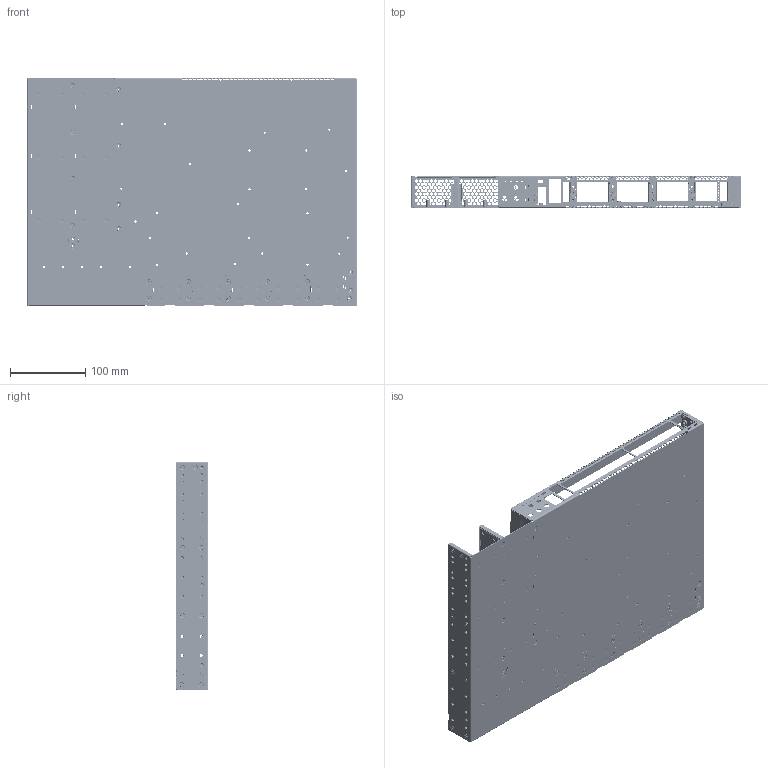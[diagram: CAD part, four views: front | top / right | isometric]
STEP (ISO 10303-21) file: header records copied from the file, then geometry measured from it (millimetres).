
FILE_DESCRIPTION((''),'2;1');
FILE_NAME('BOTTOM_CHASSIS_ASM_CSGR_01_ASM','2019-02-14T',('calvi'),(''),'CREO PARAMETRIC BY PTC INC, 2015480','CREO PARAMETRIC BY PTC INC, 2015480','');
FILE_SCHEMA(('CONFIG_CONTROL_DESIGN'));
Products named in the file (165): MSBR-164; MSBR-163; MSBR-162; MSBR-161; MSBR-160; MSBR-159; MSBR-158; MSBR-157; MSBR-156; MSBR-155; MSBR-154; MSBR-153; MSBR-152; MSBR-151; MSBR-150; MSBR-149; MSBR-148; MSBR-147; MSBR-146; MSBR-145; MSBR-144; MSBR-143; MSBR-142; MSBR-141; MSBR-140; MSBR-139; MSBR-138; MSBR-137; MSBR-136; MSBR-135; MSBR-134; MSBR-133; MSBR-132; MSBR-131; MSBR-130; MSBR-129; MSBR-128; MSBR-127; MSBR-126; MSBR-125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
Assembly tree (164 placements, depth 2):
  BOTTOM_CHASSIS_ASM_CSGR_01_ASM
    MSBR-164
    MSBR-163
    MSBR-162
    MSBR-161
    MSBR-160
    MSBR-159
    MSBR-158
    MSBR-157
    MSBR-156
    MSBR-155
    MSBR-154
    MSBR-153
    MSBR-152
    MSBR-151
    MSBR-150
    MSBR-149
    MSBR-148
    MSBR-147
    MSBR-146
    MSBR-145
    MSBR-144
    MSBR-143
    MSBR-142
    MSBR-141
    MSBR-140
    MSBR-139
    MSBR-138
    MSBR-137
    MSBR-136
    MSBR-135
    MSBR-134
    MSBR-133
    MSBR-132
    MSBR-131
    MSBR-130
    MSBR-129
    MSBR-128
    MSBR-127
    MSBR-126
    MSBR-125
    MSBR-124
    MSBR-123
    MSBR-122
    MSBR-121
    MSBR-120
    MSBR-119
    MSBR-118
    MSBR-117
    MSBR-116
    MSBR-115
    MSBR-114
    MSBR-113
    MSBR-112
    MSBR-111
    MSBR-110
    MSBR-109
    MSBR-108
    MSBR-107
    MSBR-106
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Bounding box: 437.8 x 42.64 x 302 mm (x, y, z)
Volume: 257362.4 mm3; surface area: 631839.5 mm2
Topology: 164 solids, 164 shells, 9676 faces, 26559 edges, 16941 vertices
Faces by surface type: plane 5116, cylinder 2555, cone 1174, torus 554, sphere 246, bspline 31
Entity records: 375750 total; most frequent: CARTESIAN_POINT 57665, DIRECTION 54498, ORIENTED_EDGE 52622, EDGE_CURVE 26311, AXIS2_PLACEMENT_3D 18787, VERTEX_POINT 16941, VECTOR 16924, LINE 16924
